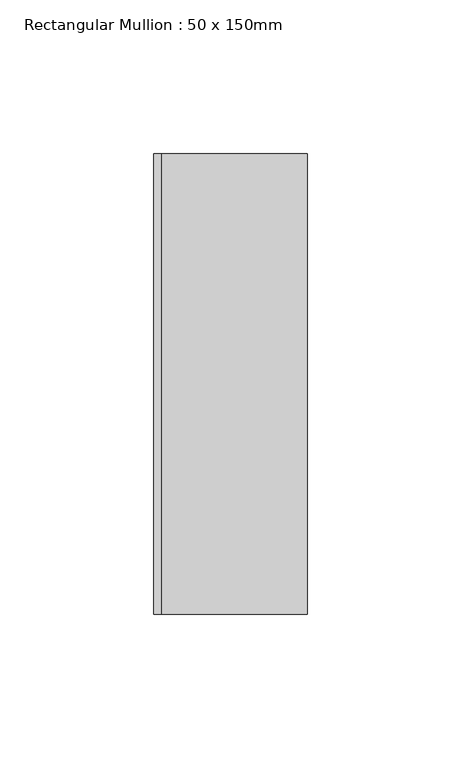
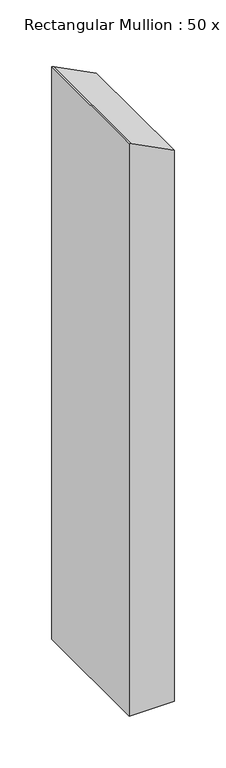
"""IFC4 building model written with IfcOpenShell, lengths in millimetres: member geometry, Rectangular Mullion : 50 x 150mm."""

from ifc_helpers import new_model, si_unit, frame, origin, place, context, project, spatial, polyline, outline, extrude, source, transform, mapped, element, save


def rectangular_mullion_50_x_150mm_18b7da49(model_context):
    return source(origin(), model_context, "Body", "SweptSolid", [
        extrude(outline(polyline([(-68.5739074, 25.0), (-44.7518201, -22.3006656), (-43.4209711, -25.0), (-719.5581928, -25.0), (-719.5581928, 25.0), (-68.5739074, 25.0)])), frame((0.0, -75.0, 0.0), z_axis=(0.0, 1.0, 0.0), x_axis=(0.0, 0.0, 1.0)), (0.0, 0.0, 1.0), 150.0),
    ])


if __name__ == "__main__":
    model = new_model("IFC4")
    model_context = context("Model", 3, world=origin())
    ifc_project = project(units=[si_unit("LENGTHUNIT", "METRE", prefix="MILLI")], contexts=[model_context])
    site = spatial("IfcSite", under=ifc_project)
    building = spatial("IfcBuilding", under=site)
    placement = place(None, origin())
    rectangular_mullion_50_x_150mm_shape = rectangular_mullion_50_x_150mm_18b7da49(model_context)
    element("IfcMember", 1, ObjectType="Rectangular Mullion : 50 x 150mm", at=placement, inside=building, context=model_context, shape_type="MappedRepresentation", body=[
        mapped(rectangular_mullion_50_x_150mm_shape, transform((0.0, 0.0, 0.0), x_axis=(1.0, 0.0, 0.0), y_axis=(0.0, 1.0, 0.0), z_axis=(0.0, 0.0, 1.0))),
    ])
    save(model, "model.ifc")
